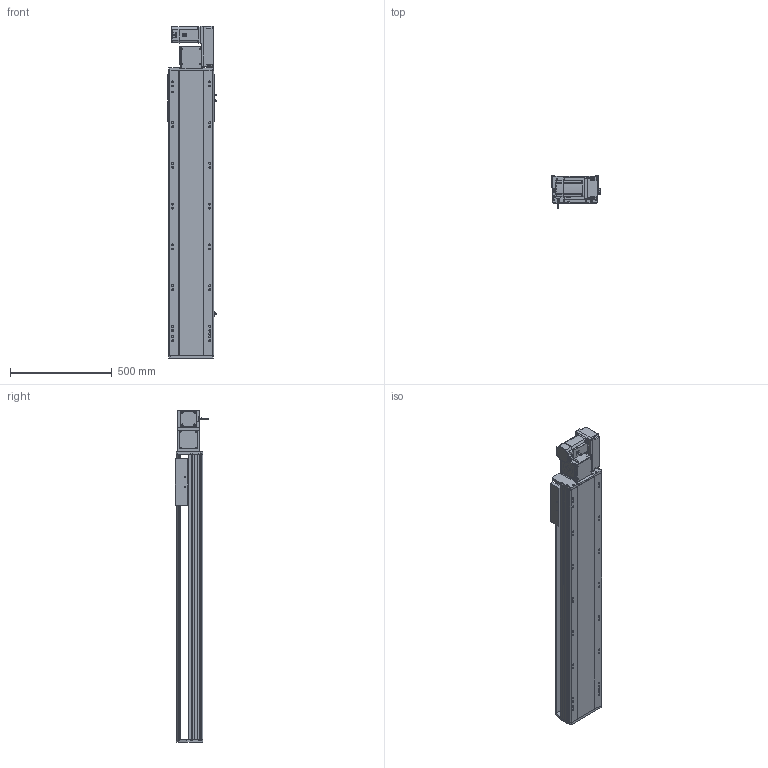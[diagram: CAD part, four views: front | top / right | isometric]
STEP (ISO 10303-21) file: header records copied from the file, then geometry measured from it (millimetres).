
FILE_DESCRIPTION (( 'STEP AP214' ), '1' );
FILE_NAME ('RTB22S-XX-1050-R-M75-C4.STEP', '2025-12-12T07:19:51', ( '' ), ( '' ), 'SwSTEP 2.0', 'SolidWorks 2018', '' );
FILE_SCHEMA (( 'AUTOMOTIVE_DESIGN' ));
Length unit declared in the file: millimetre
Products named in the file (14): 750W萇儂^RTB22S-XX-XX-R-M75-C4; RTB22S-GY-008-M75--萇儂啣^RTB22S-R-々湍釱蚾饜_RTB22S-XX-XX-R-M75-C4; RTB22S-R-々湍釱蚾饜^RTB22S-XX-XX-R-M75-C4; RTB22S-GY-018P^RTB22S-R-々湍釱蚾饜_RTB22S-XX-XX-R-M75-C4; OMRON EE-SX672 传感器^RTB22S-XX-XX-R-M75-C4; RTB22S-L-004賑釱^RTB22S-XX-XX-R-M75-C4; RTB22S-GY-017P^RTB22S-R-々湍釱蚾饜_RTB22S-XX-XX-R-M75-C4; RTB22S-L-011菁釱^RTB22S-XX-XX-R-M75-C4; RTB22S-GY-014--々湍釱^RTB22S-R-々湍釱蚾饜_RTB22S-XX-XX-R-M75-C4; RTB22S-GY-005P^RTB22S-R-々湍釱蚾饜_RTB22S-XX-XX-R-M75-C4; RTB22S-GY-001耜裔^RTB22S-XX-XX-R-M75-C4; RTH22-GY-013外置感应片^RTB22S-XX-XX-R-M75-C4; RTB22S-GY-007奻裔^RTB22S-XX-XX-R-M75-C4; RTB22S-XX-1050-R-M75-C4
Assembly tree (16 placements, depth 3):
  RTB22S-XX-1050-R-M75-C4
    RTB22S-L-011菁釱^RTB22S-XX-XX-R-M75-C4
    RTB22S-GY-001耜裔^RTB22S-XX-XX-R-M75-C4
    750W萇儂^RTB22S-XX-XX-R-M75-C4
    RTB22S-GY-007奻裔^RTB22S-XX-XX-R-M75-C4
    RTB22S-L-004賑釱^RTB22S-XX-XX-R-M75-C4
    RTH22-GY-013外置感应片^RTB22S-XX-XX-R-M75-C4
    OMRON EE-SX672 传感器^RTB22S-XX-XX-R-M75-C4  x3
    RTB22S-R-々湍釱蚾饜^RTB22S-XX-XX-R-M75-C4
      RTB22S-GY-014--々湍釱^RTB22S-R-々湍釱蚾饜_RTB22S-XX-XX-R-M75-C4
      RTB22S-GY-017P^RTB22S-R-々湍釱蚾饜_RTB22S-XX-XX-R-M75-C4  x2
      RTB22S-GY-005P^RTB22S-R-々湍釱蚾饜_RTB22S-XX-XX-R-M75-C4
      RTB22S-GY-008-M75--萇儂啣^RTB22S-R-々湍釱蚾饜_RTB22S-XX-XX-R-M75-C4
      RTB22S-GY-018P^RTB22S-R-々湍釱蚾饜_RTB22S-XX-XX-R-M75-C4
Bounding box: 238.5 x 162.7 x 1629 mm (x, y, z)
Volume: 21867837.5 mm3; surface area: 2275758.1 mm2
Topology: 15 solids, 15 shells, 1983 faces, 5386 edges, 3452 vertices
Faces by surface type: plane 915, cylinder 622, bspline 296, cone 138, sphere 8, torus 4
Entity records: 52768 total; most frequent: CARTESIAN_POINT 15172, ORIENTED_EDGE 7560, DIRECTION 7274, EDGE_CURVE 3780, AXIS2_PLACEMENT_3D 2566, VERTEX_POINT 2456, VECTOR 2142, LINE 2142
